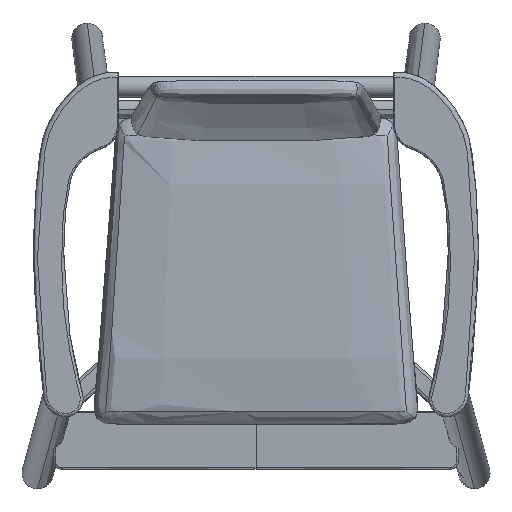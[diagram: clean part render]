
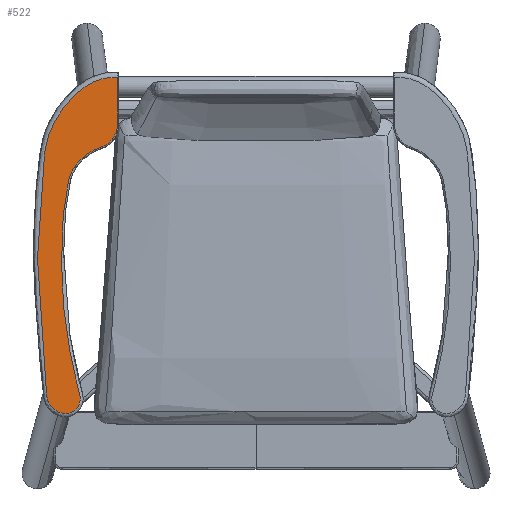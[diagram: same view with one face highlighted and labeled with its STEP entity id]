
A CAD part, top view. The second image highlights one B-rep face of the part: STEP entity #522.
In plain terms, the highlighted planar face has unit normal (0, 0, 1).
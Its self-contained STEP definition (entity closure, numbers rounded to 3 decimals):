
#145=(
BOUNDED_CURVE()
B_SPLINE_CURVE(3,(#12006,#12007,#12008,#12009,#12010,#12011,#12012,#12013,
#12014,#12015,#12016,#12017,#12018,#12019,#12020,#12021,#12022,#12023,#12024,
#12025,#12026,#12027,#12028,#12029,#12030,#12031,#12032,#12033,#12034,#12035,
#12036,#12037,#12038,#12039,#12040,#12041,#12042,#12043,#12044,#12045,#12046,
#12047,#12048,#12049,#12050,#12051,#12052,#12053,#12054,#12055,#12056,#12057,
#12058,#12059,#12060,#12061,#12062,#12063,#12064,#12065,#12066,#12067,#12068,
#12069,#12070,#12071,#12072,#12073,#12074,#12075,#12076,#12077,#12078,#12079,
#12080,#12081,#12082,#12083,#12084,#12085,#12086,#12087,#12088,#12089,#12090,
#12091),.UNSPECIFIED.,.F.,.F.)
B_SPLINE_CURVE_WITH_KNOTS((4,1,1,1,1,1,1,1,1,1,1,1,1,1,1,1,1,1,1,1,1,1,
1,1,1,1,1,1,1,1,1,1,1,1,1,1,1,1,1,1,1,1,1,1,1,1,1,1,1,1,1,1,1,1,1,1,1,1,
1,1,1,1,1,1,1,1,1,1,1,1,1,1,1,1,1,1,1,1,1,1,1,1,1,4),(0.,
5.095,16.451,20.703,23.157,25.612,
31.511,37.019,47.836,54.098,60.36,
64.048,67.736,72.447,77.157,79.495,
81.832,87.588,93.343,120.898,133.206,
145.515,167.767,194.449,221.13,238.738,
256.345,261.239,266.134,268.415,270.697,
272.978,275.259,278.391,281.523,286.344,
289.463,290.94,292.416,298.604,301.636,
304.667,307.229,309.792,312.245,313.638,
315.031,316.611,318.19,321.649,325.908,
330.167,332.943,335.719,338.975,340.602,
342.23,348.953,355.676,369.122,377.222,
385.322,393.423,401.523,416.647,431.77,
456.294,481.463,503.31,525.156,551.454,
565.286,576.178,586.761,597.633,618.699,
625.015,631.33,638.744,646.159,654.857,
663.556,672.44,680.609),.UNSPECIFIED.)
CURVE()
GEOMETRIC_REPRESENTATION_ITEM()
RATIONAL_B_SPLINE_CURVE((1.,1.,1.,1.,1.,1.,1.,1.,1.,1.,
1.,1.,1.,1.,1.,1.,1.,1.,1.,1.,
1.,1.,1.,1.,1.,1.,1.,1.,1.,
1.,1.,1.,1.,1.,1.,1.,1.,1.,
1.,1.,1.,1.,1.,1.,1.,1.,1.,1.,1.,1.,1.,1.,
1.,1.,1.,1.,1.,1.,1.,1.,1.,
1.,1.,1.,1.,1.,1.,1.,1.,1.,1.,1.,
1.,1.,1.,1.,1.,1.,1.,1.,1.,1.,
1.,1.,1.,1.))
REPRESENTATION_ITEM('')
);
#150=(
BOUNDED_CURVE()
B_SPLINE_CURVE(1,(#12101,#12102),.UNSPECIFIED.,.F.,.F.)
B_SPLINE_CURVE_WITH_KNOTS((2,2),(4.947,49.859),
 .UNSPECIFIED.)
CURVE()
GEOMETRIC_REPRESENTATION_ITEM()
RATIONAL_B_SPLINE_CURVE((1.,1.))
REPRESENTATION_ITEM('')
);
#391=PLANE('',#2734);
#522=ADVANCED_FACE('',(#706),#391,.T.);
#706=FACE_OUTER_BOUND('',#897,.T.);
#897=EDGE_LOOP('',(#1482,#1483));
#1482=ORIENTED_EDGE('',*,*,#2059,.F.);
#1483=ORIENTED_EDGE('',*,*,#2054,.F.);
#2054=EDGE_CURVE('',#2572,#2573,#145,.T.);
#2059=EDGE_CURVE('',#2573,#2572,#150,.T.);
#2572=VERTEX_POINT('',#10774);
#2573=VERTEX_POINT('',#10775);
#2734=AXIS2_PLACEMENT_3D('',#10637,#2770,$);
#2770=DIRECTION('',(0.,0.,1.));
#10637=CARTESIAN_POINT('',(-121.506,-185.808,629.912));
#10774=CARTESIAN_POINT('',(-133.021,136.548,629.912));
#10775=CARTESIAN_POINT('',(-132.781,181.459,629.912));
#12006=CARTESIAN_POINT('',(-133.021,136.548,629.912));
#12007=CARTESIAN_POINT('',(-133.03,134.855,629.912));
#12008=CARTESIAN_POINT('',(-133.646,129.359,629.912));
#12009=CARTESIAN_POINT('',(-136.822,123.028,629.912));
#12010=CARTESIAN_POINT('',(-141.058,118.716,629.912));
#12011=CARTESIAN_POINT('',(-143.55,116.934,629.912));
#12012=CARTESIAN_POINT('',(-146.727,115.229,629.912));
#12013=CARTESIAN_POINT('',(-151.074,113.615,629.912));
#12014=CARTESIAN_POINT('',(-157.893,110.746,629.912));
#12015=CARTESIAN_POINT('',(-164.278,106.631,629.912));
#12016=CARTESIAN_POINT('',(-169.906,101.244,629.912));
#12017=CARTESIAN_POINT('',(-173.347,97.06,629.912));
#12018=CARTESIAN_POINT('',(-175.793,93.222,629.912));
#12019=CARTESIAN_POINT('',(-177.623,89.628,629.912));
#12020=CARTESIAN_POINT('',(-179.168,85.532,629.912));
#12021=CARTESIAN_POINT('',(-180.229,81.758,629.912));
#12022=CARTESIAN_POINT('',(-180.938,78.71,629.912));
#12023=CARTESIAN_POINT('',(-181.651,75.307,629.912));
#12024=CARTESIAN_POINT('',(-182.492,70.768,629.912));
#12025=CARTESIAN_POINT('',(-184.531,57.904,629.912));
#12026=CARTESIAN_POINT('',(-185.825,42.737,629.912));
#12027=CARTESIAN_POINT('',(-186.499,25.361,629.912));
#12028=CARTESIAN_POINT('',(-186.838,9.741,629.912));
#12029=CARTESIAN_POINT('',(-186.722,-10.677,629.912));
#12030=CARTESIAN_POINT('',(-185.292,-35.852,629.912));
#12031=CARTESIAN_POINT('',(-182.557,-59.361,629.912));
#12032=CARTESIAN_POINT('',(-179.148,-79.713,629.912));
#12033=CARTESIAN_POINT('',(-176.538,-92.826,629.912));
#12034=CARTESIAN_POINT('',(-174.667,-101.764,629.912));
#12035=CARTESIAN_POINT('',(-173.776,-105.688,629.912));
#12036=CARTESIAN_POINT('',(-173.029,-108.75,629.912));
#12037=CARTESIAN_POINT('',(-172.456,-110.959,629.912));
#12038=CARTESIAN_POINT('',(-171.853,-113.159,629.912));
#12039=CARTESIAN_POINT('',(-171.128,-115.619,629.912));
#12040=CARTESIAN_POINT('',(-170.303,-118.345,629.912));
#12041=CARTESIAN_POINT('',(-169.356,-121.918,629.912));
#12042=CARTESIAN_POINT('',(-168.747,-125.569,629.912));
#12043=CARTESIAN_POINT('',(-168.843,-128.724,629.912));
#12044=CARTESIAN_POINT('',(-169.214,-130.715,629.912));
#12045=CARTESIAN_POINT('',(-170.126,-133.631,629.912));
#12046=CARTESIAN_POINT('',(-172.122,-136.681,629.912));
#12047=CARTESIAN_POINT('',(-175.308,-139.269,629.912));
#12048=CARTESIAN_POINT('',(-177.89,-140.573,629.912));
#12049=CARTESIAN_POINT('',(-180.516,-141.312,629.912));
#12050=CARTESIAN_POINT('',(-183.039,-141.568,629.912));
#12051=CARTESIAN_POINT('',(-185.178,-141.39,629.912));
#12052=CARTESIAN_POINT('',(-186.88,-140.987,629.912));
#12053=CARTESIAN_POINT('',(-188.264,-140.535,629.912));
#12054=CARTESIAN_POINT('',(-189.664,-139.948,629.912));
#12055=CARTESIAN_POINT('',(-191.637,-138.958,629.912));
#12056=CARTESIAN_POINT('',(-194.234,-137.246,629.912));
#12057=CARTESIAN_POINT('',(-197.078,-134.405,629.912));
#12058=CARTESIAN_POINT('',(-199.074,-131.182,629.912));
#12059=CARTESIAN_POINT('',(-200.222,-128.11,629.912));
#12060=CARTESIAN_POINT('',(-200.857,-125.238,629.912));
#12061=CARTESIAN_POINT('',(-201.197,-122.707,629.912));
#12062=CARTESIAN_POINT('',(-201.412,-120.547,629.912));
#12063=CARTESIAN_POINT('',(-201.71,-117.235,629.912));
#12064=CARTESIAN_POINT('',(-202.204,-112.234,629.912));
#12065=CARTESIAN_POINT('',(-203.173,-103.323,629.912));
#12066=CARTESIAN_POINT('',(-204.207,-93.957,629.912));
#12067=CARTESIAN_POINT('',(-205.123,-84.117,629.912));
#12068=CARTESIAN_POINT('',(-205.812,-76.046,629.912));
#12069=CARTESIAN_POINT('',(-206.428,-67.97,629.912));
#12070=CARTESIAN_POINT('',(-207.152,-57.554,629.912));
#12071=CARTESIAN_POINT('',(-207.922,-44.794,629.912));
#12072=CARTESIAN_POINT('',(-208.885,-26.563,629.912));
#12073=CARTESIAN_POINT('',(-209.795,-4.975,629.912));
#12074=CARTESIAN_POINT('',(-210.006,18.874,629.912));
#12075=CARTESIAN_POINT('',(-209.335,41.822,629.912));
#12076=CARTESIAN_POINT('',(-208.015,65.116,629.912));
#12077=CARTESIAN_POINT('',(-206.201,85.698,629.912));
#12078=CARTESIAN_POINT('',(-204.069,102.574,629.912));
#12079=CARTESIAN_POINT('',(-202.257,114.204,629.912));
#12080=CARTESIAN_POINT('',(-199.708,124.702,629.912));
#12081=CARTESIAN_POINT('',(-194.477,137.91,629.912));
#12082=CARTESIAN_POINT('',(-187.794,148.853,629.912));
#12083=CARTESIAN_POINT('',(-180.726,157.588,629.912));
#12084=CARTESIAN_POINT('',(-176.218,162.524,629.912));
#12085=CARTESIAN_POINT('',(-171.084,167.363,629.912));
#12086=CARTESIAN_POINT('',(-164.889,172.188,629.912));
#12087=CARTESIAN_POINT('',(-157.795,176.474,629.912));
#12088=CARTESIAN_POINT('',(-149.665,179.83,629.912));
#12089=CARTESIAN_POINT('',(-141.199,181.492,629.912));
#12090=CARTESIAN_POINT('',(-135.5,181.606,629.912));
#12091=CARTESIAN_POINT('',(-132.781,181.459,629.912));
#12101=CARTESIAN_POINT('',(-132.781,181.459,629.912));
#12102=CARTESIAN_POINT('',(-133.021,136.548,629.912));
